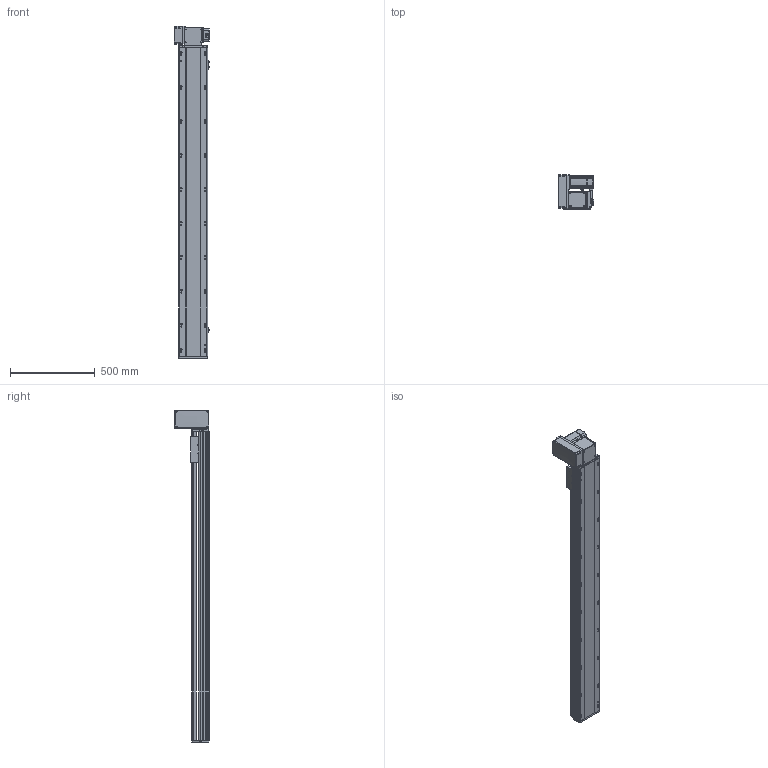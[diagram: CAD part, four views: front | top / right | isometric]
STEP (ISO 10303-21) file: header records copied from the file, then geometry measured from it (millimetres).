
FILE_DESCRIPTION (( 'STEP AP214' ), '1' );
FILE_NAME ('RTB17S-XX-1550-LW-M75-C4.STEP', '2025-12-12T01:07:54', ( '' ), ( '' ), 'SwSTEP 2.0', 'SolidWorks 2018', '' );
FILE_SCHEMA (( 'AUTOMOTIVE_DESIGN' ));
Length unit declared in the file: millimetre
Products named in the file (15): RTB17-R-011菁釱^RTB17S-XX-XX-LW-M75-C4; RTB17S-L-004-賑釱^RTB17S-賑釱_RTB17S-XX-XX-LW-M75-C4; EE672^RTB17S-XX-XX-LW-M75-C4; RTB17S-XX-1550-LW-M75-C4; RTB17S-LW-々湍釱蚾饜-750W^RTB17S-XX-XX-LW-M75-C4; RTB22S-GY-008-M75--萇儂啣^RTB17S-LW-々湍釱蚾饜-750W_RTB17S-XX-XX-LW-M75-C4; RTB17S-賑釱^RTB17S-XX-XX-LW-M75-C4; 750W萇儂^RTB17S-XX-XX-LW-M75-C4; RTB22S-GY-018P^RTB17S-LW-々湍釱蚾饜-750W_RTB17S-XX-XX-LW-M75-C4; RTB17S-L-007奻裔^RTB17S-XX-XX-LW-M75-C4; RTB17S-L-014-T20-P75--々湍釱^RTB17S-LW-々湍釱蚾饜-750W_RTB17S-XX-XX-LW-M75-C4; RTB22S-GY-005P^RTB17S-LW-々湍釱蚾饜-750W_RTB17S-XX-XX-LW-M75-C4; RTB22S-GY-017P^RTB17S-LW-々湍釱蚾饜-750W_RTB17S-XX-XX-LW-M75-C4; RTB17S-L-001-耜醱啣^RTB17S-XX-XX-LW-M75-C4; RTH13-BL-012覜茼え俋离^RTB17S-賑釱_RTB17S-XX-XX-LW-M75-C4
Assembly tree (17 placements, depth 3):
  RTB17S-XX-1550-LW-M75-C4
    RTB17-R-011菁釱^RTB17S-XX-XX-LW-M75-C4
    EE672^RTB17S-XX-XX-LW-M75-C4  x3
    RTB17S-L-001-耜醱啣^RTB17S-XX-XX-LW-M75-C4
    RTB17S-賑釱^RTB17S-XX-XX-LW-M75-C4
      RTB17S-L-004-賑釱^RTB17S-賑釱_RTB17S-XX-XX-LW-M75-C4
      RTH13-BL-012覜茼え俋离^RTB17S-賑釱_RTB17S-XX-XX-LW-M75-C4
    RTB17S-L-007奻裔^RTB17S-XX-XX-LW-M75-C4
    750W萇儂^RTB17S-XX-XX-LW-M75-C4
    RTB17S-LW-々湍釱蚾饜-750W^RTB17S-XX-XX-LW-M75-C4
      RTB17S-L-014-T20-P75--々湍釱^RTB17S-LW-々湍釱蚾饜-750W_RTB17S-XX-XX-LW-M75-C4
      RTB22S-GY-005P^RTB17S-LW-々湍釱蚾饜-750W_RTB17S-XX-XX-LW-M75-C4
      RTB22S-GY-017P^RTB17S-LW-々湍釱蚾饜-750W_RTB17S-XX-XX-LW-M75-C4  x2
      RTB22S-GY-008-M75--萇儂啣^RTB17S-LW-々湍釱蚾饜-750W_RTB17S-XX-XX-LW-M75-C4
      RTB22S-GY-018P^RTB17S-LW-々湍釱蚾饜-750W_RTB17S-XX-XX-LW-M75-C4
Bounding box: 210.4 x 201.5 x 1957.5 mm (x, y, z)
Volume: 15639276.4 mm3; surface area: 2746500.1 mm2
Topology: 17 solids, 17 shells, 2137 faces, 5944 edges, 3842 vertices
Faces by surface type: plane 976, cylinder 745, bspline 294, cone 110, sphere 8, torus 4
Entity records: 60406 total; most frequent: CARTESIAN_POINT 17808, ORIENTED_EDGE 8732, DIRECTION 8132, EDGE_CURVE 4366, AXIS2_PLACEMENT_3D 2862, VERTEX_POINT 2846, VECTOR 2408, LINE 2408
